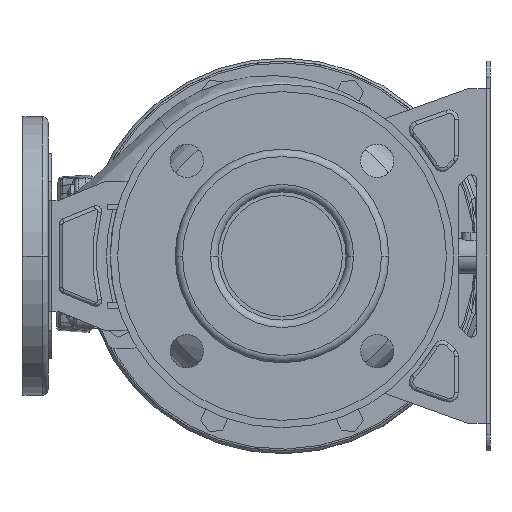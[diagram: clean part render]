
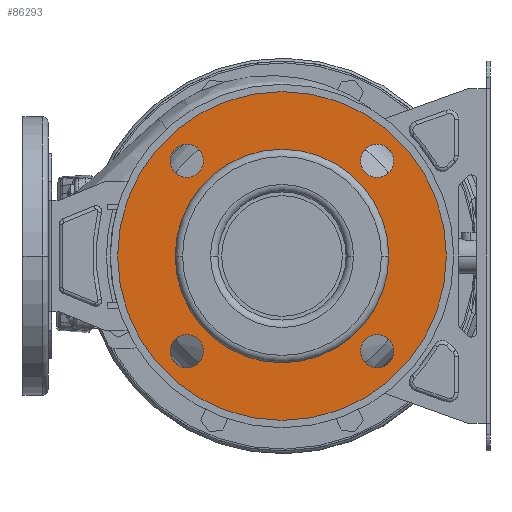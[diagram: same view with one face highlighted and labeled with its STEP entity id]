
A CAD part, front view. The second image highlights one B-rep face of the part: STEP entity #86293.
In plain terms, the highlighted planar face has unit normal (0, -1, 0).
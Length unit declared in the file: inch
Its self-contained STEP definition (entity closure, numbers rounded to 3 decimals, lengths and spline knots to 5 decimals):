
#1419 = DIRECTION ( 'NONE',  ( 0., 1., 0. ) ) ;
#1994 = DIRECTION ( 'NONE',  ( 0., 0., -1. ) ) ;
#2259 = ORIENTED_EDGE ( 'NONE', *, *, #72099, .T. ) ;
#2710 = CARTESIAN_POINT ( 'NONE',  ( 3.48425, -6.92913, 0. ) ) ;
#6690 = DIRECTION ( 'NONE',  ( 0., 0., 1. ) ) ;
#7335 = DIRECTION ( 'NONE',  ( -1., 0., 0. ) ) ;
#7508 = EDGE_LOOP ( 'NONE', ( #79028, #103716 ) ) ;
#9055 = DIRECTION ( 'NONE',  ( 0., 0., 1. ) ) ;
#9070 = DIRECTION ( 'NONE',  ( 0., -1., 0. ) ) ;
#9130 = VERTEX_POINT ( 'NONE', #67020 ) ;
#10364 = DIRECTION ( 'NONE',  ( 1., 0., 0. ) ) ;
#10460 = VERTEX_POINT ( 'NONE', #20541 ) ;
#13191 = AXIS2_PLACEMENT_3D ( 'NONE', #76956, #84788, #30069 ) ;
#13233 = CARTESIAN_POINT ( 'NONE',  ( -2.01832, -6.92913, -2.01832 ) ) ;
#15428 = DIRECTION ( 'NONE',  ( -1., 0., 0. ) ) ;
#15981 = CARTESIAN_POINT ( 'NONE',  ( -2.26378, -6.92913, 0. ) ) ;
#16997 = CARTESIAN_POINT ( 'NONE',  ( 2.01832, -6.92913, 2.01832 ) ) ;
#18033 = VERTEX_POINT ( 'NONE', #15981 ) ;
#18137 = PLANE ( 'NONE',  #84188 ) ;
#19236 = CARTESIAN_POINT ( 'NONE',  ( 0., -6.92913, 0. ) ) ;
#19693 = CARTESIAN_POINT ( 'NONE',  ( -1.66399, -6.92913, -2.01832 ) ) ;
#20541 = CARTESIAN_POINT ( 'NONE',  ( 2.26378, -6.92913, 0. ) ) ;
#21487 = CIRCLE ( 'NONE', #55992, 0.35433 ) ;
#22131 = ORIENTED_EDGE ( 'NONE', *, *, #67569, .T. ) ;
#23774 = EDGE_CURVE ( 'NONE', #44597, #69194, #118211, .T. ) ;
#24594 = CARTESIAN_POINT ( 'NONE',  ( 2.01832, -6.92913, -2.37265 ) ) ;
#25352 = FACE_BOUND ( 'NONE', #105073, .T. ) ;
#26709 = EDGE_LOOP ( 'NONE', ( #33940, #51665 ) ) ;
#27081 = CARTESIAN_POINT ( 'NONE',  ( -2.01832, -6.92913, 1.66399 ) ) ;
#27650 = AXIS2_PLACEMENT_3D ( 'NONE', #16997, #71684, #72856 ) ;
#27676 = DIRECTION ( 'NONE',  ( -1., 0., 0. ) ) ;
#29453 = AXIS2_PLACEMENT_3D ( 'NONE', #52530, #59750, #107237 ) ;
#30069 = DIRECTION ( 'NONE',  ( -1., 0., 0. ) ) ;
#30787 = AXIS2_PLACEMENT_3D ( 'NONE', #19236, #9070, #27676 ) ;
#32557 = DIRECTION ( 'NONE',  ( -1., 0., 0. ) ) ;
#33072 = DIRECTION ( 'NONE',  ( 0., 0., -1. ) ) ;
#33636 = DIRECTION ( 'NONE',  ( 0., 1., 0. ) ) ;
#33940 = ORIENTED_EDGE ( 'NONE', *, *, #52871, .F. ) ;
#34009 = CIRCLE ( 'NONE', #89721, 2.26378 ) ;
#34310 = EDGE_LOOP ( 'NONE', ( #87057, #2259 ) ) ;
#34453 = EDGE_LOOP ( 'NONE', ( #109899, #54956 ) ) ;
#35988 = AXIS2_PLACEMENT_3D ( 'NONE', #108233, #99797, #9055 ) ;
#40185 = EDGE_CURVE ( 'NONE', #75470, #101795, #81336, .T. ) ;
#43364 = VERTEX_POINT ( 'NONE', #24594 ) ;
#43872 = CIRCLE ( 'NONE', #105051, 0.35433 ) ;
#44597 = VERTEX_POINT ( 'NONE', #62456 ) ;
#45789 = CIRCLE ( 'NONE', #13191, 3.48425 ) ;
#51665 = ORIENTED_EDGE ( 'NONE', *, *, #70409, .T. ) ;
#52530 = CARTESIAN_POINT ( 'NONE',  ( 2.01832, -6.92913, 2.01832 ) ) ;
#52871 = EDGE_CURVE ( 'NONE', #18033, #10460, #74911, .T. ) ;
#52988 = FACE_BOUND ( 'NONE', #26709, .T. ) ;
#54021 = CARTESIAN_POINT ( 'NONE',  ( 0., -6.92913, 0. ) ) ;
#54497 = CIRCLE ( 'NONE', #65965, 0.35433 ) ;
#54956 = ORIENTED_EDGE ( 'NONE', *, *, #112791, .T. ) ;
#55992 = AXIS2_PLACEMENT_3D ( 'NONE', #68560, #70363, #6690 ) ;
#55998 = CARTESIAN_POINT ( 'NONE',  ( -2.01832, -6.92913, -2.01832 ) ) ;
#56083 = CARTESIAN_POINT ( 'NONE',  ( 2.01832, -6.92913, -2.01832 ) ) ;
#58191 = EDGE_LOOP ( 'NONE', ( #62023, #22131 ) ) ;
#59750 = DIRECTION ( 'NONE',  ( 0., 1., 0. ) ) ;
#60075 = AXIS2_PLACEMENT_3D ( 'NONE', #55998, #111285, #10364 ) ;
#61949 = AXIS2_PLACEMENT_3D ( 'NONE', #79138, #69507, #15428 ) ;
#62023 = ORIENTED_EDGE ( 'NONE', *, *, #95941, .T. ) ;
#62456 = CARTESIAN_POINT ( 'NONE',  ( -2.37265, -6.92913, -2.01832 ) ) ;
#62489 = CARTESIAN_POINT ( 'NONE',  ( -2.01832, -6.92913, 2.01832 ) ) ;
#64114 = CIRCLE ( 'NONE', #27650, 0.35433 ) ;
#64260 = ORIENTED_EDGE ( 'NONE', *, *, #84019, .T. ) ;
#65965 = AXIS2_PLACEMENT_3D ( 'NONE', #56083, #1419, #1994 ) ;
#67020 = CARTESIAN_POINT ( 'NONE',  ( 2.01832, -6.92913, -1.66399 ) ) ;
#67569 = EDGE_CURVE ( 'NONE', #9130, #43364, #21487, .T. ) ;
#68021 = VERTEX_POINT ( 'NONE', #85592 ) ;
#68560 = CARTESIAN_POINT ( 'NONE',  ( 2.01832, -6.92913, -2.01832 ) ) ;
#69194 = VERTEX_POINT ( 'NONE', #19693 ) ;
#69507 = DIRECTION ( 'NONE',  ( 0., 1., 0. ) ) ;
#70363 = DIRECTION ( 'NONE',  ( 0., 1., 0. ) ) ;
#70409 = EDGE_CURVE ( 'NONE', #18033, #10460, #34009, .T. ) ;
#71434 = ORIENTED_EDGE ( 'NONE', *, *, #40185, .T. ) ;
#71684 = DIRECTION ( 'NONE',  ( 0., 1., 0. ) ) ;
#72099 = EDGE_CURVE ( 'NONE', #92148, #68021, #43872, .T. ) ;
#72856 = DIRECTION ( 'NONE',  ( -1., 0., 0. ) ) ;
#73128 = EDGE_CURVE ( 'NONE', #68021, #92148, #87809, .T. ) ;
#74911 = CIRCLE ( 'NONE', #30787, 2.26378 ) ;
#75470 = VERTEX_POINT ( 'NONE', #102814 ) ;
#76956 = CARTESIAN_POINT ( 'NONE',  ( 0., -6.92913, 0. ) ) ;
#78850 = DIRECTION ( 'NONE',  ( 0., 1., 0. ) ) ;
#79028 = ORIENTED_EDGE ( 'NONE', *, *, #95031, .F. ) ;
#79138 = CARTESIAN_POINT ( 'NONE',  ( 0., -6.92913, 0. ) ) ;
#80665 = FACE_BOUND ( 'NONE', #34453, .T. ) ;
#81336 = CIRCLE ( 'NONE', #29453, 0.35433 ) ;
#84019 = EDGE_CURVE ( 'NONE', #101795, #75470, #64114, .T. ) ;
#84188 = AXIS2_PLACEMENT_3D ( 'NONE', #91468, #108893, #7335 ) ;
#84788 = DIRECTION ( 'NONE',  ( 0., -1., 0. ) ) ;
#85592 = CARTESIAN_POINT ( 'NONE',  ( -2.01832, -6.92913, 2.37265 ) ) ;
#86293 = ADVANCED_FACE ( 'NONE', ( #109488, #52988, #25352, #98708, #80665, #89675 ), #18137, .F. ) ;
#87057 = ORIENTED_EDGE ( 'NONE', *, *, #73128, .T. ) ;
#87809 = CIRCLE ( 'NONE', #35988, 0.35433 ) ;
#88137 = VERTEX_POINT ( 'NONE', #113884 ) ;
#88982 = CARTESIAN_POINT ( 'NONE',  ( 1.66399, -6.92913, 2.01832 ) ) ;
#89675 = FACE_BOUND ( 'NONE', #34310, .T. ) ;
#89721 = AXIS2_PLACEMENT_3D ( 'NONE', #54021, #78850, #32557 ) ;
#90153 = DIRECTION ( 'NONE',  ( 0., 1., 0. ) ) ;
#91468 = CARTESIAN_POINT ( 'NONE',  ( 0., -6.92913, 0. ) ) ;
#92148 = VERTEX_POINT ( 'NONE', #27081 ) ;
#95031 = EDGE_CURVE ( 'NONE', #88137, #102103, #96547, .T. ) ;
#95941 = EDGE_CURVE ( 'NONE', #43364, #9130, #54497, .T. ) ;
#96183 = DIRECTION ( 'NONE',  ( -1., 0., 0. ) ) ;
#96547 = CIRCLE ( 'NONE', #61949, 3.48425 ) ;
#98708 = FACE_BOUND ( 'NONE', #58191, .T. ) ;
#99797 = DIRECTION ( 'NONE',  ( 0., 1., 0. ) ) ;
#101795 = VERTEX_POINT ( 'NONE', #88982 ) ;
#102103 = VERTEX_POINT ( 'NONE', #2710 ) ;
#102814 = CARTESIAN_POINT ( 'NONE',  ( 2.37265, -6.92913, 2.01832 ) ) ;
#103716 = ORIENTED_EDGE ( 'NONE', *, *, #104725, .T. ) ;
#104725 = EDGE_CURVE ( 'NONE', #88137, #102103, #45789, .T. ) ;
#105051 = AXIS2_PLACEMENT_3D ( 'NONE', #62489, #90153, #33072 ) ;
#105073 = EDGE_LOOP ( 'NONE', ( #71434, #64260 ) ) ;
#106606 = AXIS2_PLACEMENT_3D ( 'NONE', #13233, #33636, #96183 ) ;
#107237 = DIRECTION ( 'NONE',  ( 1., 0., 0. ) ) ;
#108233 = CARTESIAN_POINT ( 'NONE',  ( -2.01832, -6.92913, 2.01832 ) ) ;
#108893 = DIRECTION ( 'NONE',  ( 0., 1., 0. ) ) ;
#109488 = FACE_OUTER_BOUND ( 'NONE', #7508, .T. ) ;
#109899 = ORIENTED_EDGE ( 'NONE', *, *, #23774, .T. ) ;
#111285 = DIRECTION ( 'NONE',  ( 0., 1., 0. ) ) ;
#112791 = EDGE_CURVE ( 'NONE', #69194, #44597, #115781, .T. ) ;
#113884 = CARTESIAN_POINT ( 'NONE',  ( -3.48425, -6.92913, 0. ) ) ;
#115781 = CIRCLE ( 'NONE', #60075, 0.35433 ) ;
#118211 = CIRCLE ( 'NONE', #106606, 0.35433 ) ;
